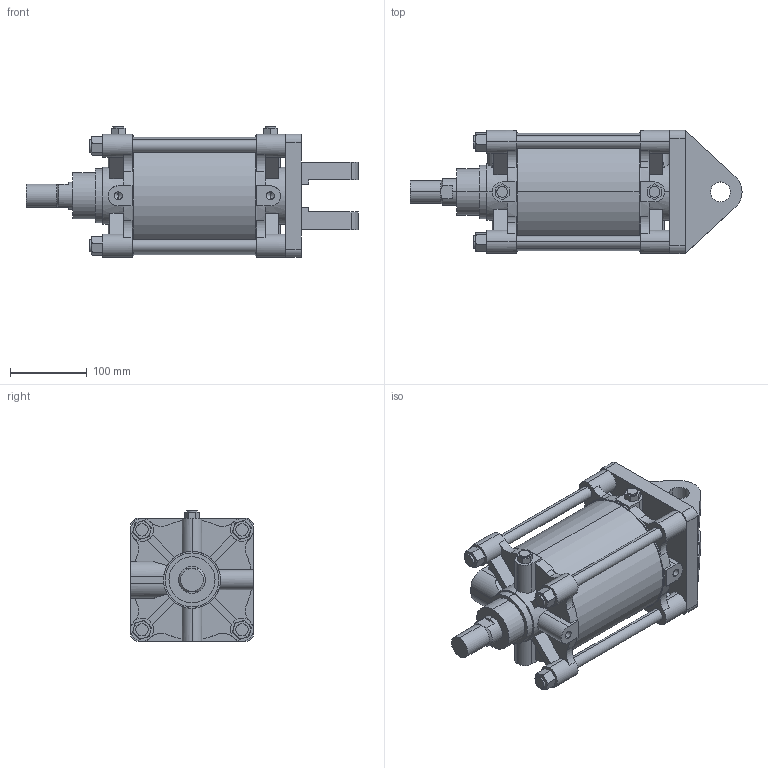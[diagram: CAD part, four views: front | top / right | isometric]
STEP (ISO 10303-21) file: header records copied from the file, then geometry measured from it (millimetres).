
FILE_DESCRIPTION (( 'STEP AP203' ), '1' );
FILE_NAME ('A##2-140#-100-W.STEP', '2016-03-31T06:54:34', ( '' ), ( '' ), 'SwSTEP 2.0', 'SolidWorks 2014', '' );
FILE_SCHEMA (( 'CONFIG_CONTROL_DESIGN' ));
Length unit declared in the file: millimetre
Products named in the file (7): A140-W; A140-100; A140-A; A##2-140#-100-W; A140-B
Assembly tree (12 placements, depth 2):
  A##2-140#-100-W
    A140-B
    A140-100
    A140-A
    (unnamed)  x4
    (unnamed)  x4
    A140-W
Bounding box: 432 x 160 x 170 mm (x, y, z)
Volume: 5214518 mm3; surface area: 480902.4 mm2
Topology: 12 solids, 14 shells, 363 faces, 932 edges, 598 vertices
Faces by surface type: plane 187, cylinder 136, torus 24, cone 16
Entity records: 10868 total; most frequent: CARTESIAN_POINT 2165, DIRECTION 1730, ORIENTED_EDGE 1588, EDGE_CURVE 794, AXIS2_PLACEMENT_3D 652, VERTEX_POINT 520, LINE 426, VECTOR 426
